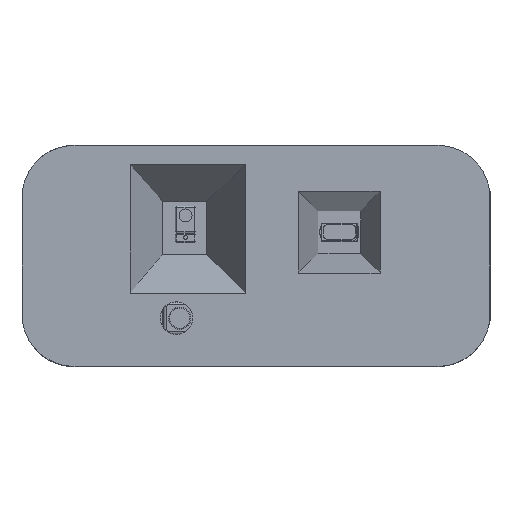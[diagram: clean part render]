
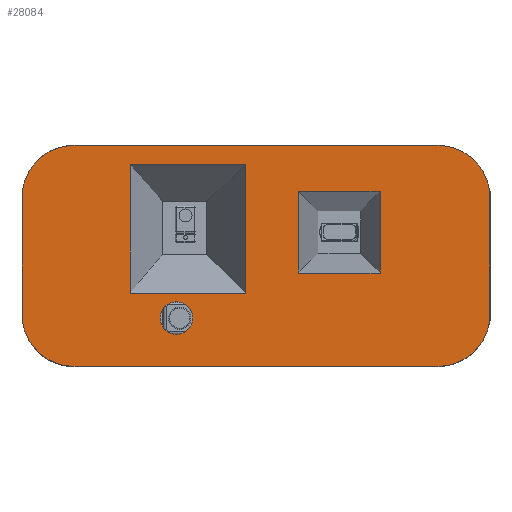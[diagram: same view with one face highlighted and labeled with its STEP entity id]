
A CAD part, top view. The second image highlights one B-rep face of the part: STEP entity #28084.
In plain terms, the highlighted planar face has unit normal (0, 0, 1).
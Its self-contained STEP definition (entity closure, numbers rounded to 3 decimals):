
#349=FACE_BOUND('',#4235,.T.);
#350=FACE_BOUND('',#4236,.T.);
#351=FACE_BOUND('',#4237,.T.);
#917=CIRCLE('',#30200,1.25);
#925=CIRCLE('',#30214,4.);
#934=CIRCLE('',#30247,4.);
#950=CIRCLE('',#30277,4.);
#951=CIRCLE('',#30279,4.);
#2681=FACE_OUTER_BOUND('',#4234,.T.);
#4234=EDGE_LOOP('',(#24928,#24929,#24930,#24931,#24932,#24933,#24934,#24935));
#4235=EDGE_LOOP('',(#24936));
#4236=EDGE_LOOP('',(#24937,#24938,#24939,#24940));
#4237=EDGE_LOOP('',(#24941,#24942,#24943,#24944));
#7373=LINE('',#46597,#10620);
#7388=LINE('',#46680,#10635);
#7391=LINE('',#46686,#10638);
#7394=LINE('',#46692,#10641);
#7397=LINE('',#46696,#10644);
#7412=LINE('',#46729,#10659);
#7416=LINE('',#46736,#10663);
#7419=LINE('',#46742,#10666);
#7421=LINE('',#46745,#10668);
#7486=LINE('',#46912,#10733);
#7489=LINE('',#46921,#10736);
#7490=LINE('',#46924,#10737);
#10620=VECTOR('',#37415,10.);
#10635=VECTOR('',#37456,10.);
#10638=VECTOR('',#37461,10.);
#10641=VECTOR('',#37466,10.);
#10644=VECTOR('',#37471,10.);
#10659=VECTOR('',#37498,10.);
#10663=VECTOR('',#37504,10.);
#10666=VECTOR('',#37509,10.);
#10668=VECTOR('',#37513,10.);
#10733=VECTOR('',#37670,10.);
#10736=VECTOR('',#37681,10.);
#10737=VECTOR('',#37684,10.);
#13163=VERTEX_POINT('',#46581);
#13169=VERTEX_POINT('',#46594);
#13170=VERTEX_POINT('',#46596);
#13181=VERTEX_POINT('',#46664);
#13182=VERTEX_POINT('',#46666);
#13187=VERTEX_POINT('',#46677);
#13188=VERTEX_POINT('',#46679);
#13190=VERTEX_POINT('',#46685);
#13192=VERTEX_POINT('',#46691);
#13203=VERTEX_POINT('',#46726);
#13204=VERTEX_POINT('',#46728);
#13206=VERTEX_POINT('',#46734);
#13208=VERTEX_POINT('',#46740);
#13234=VERTEX_POINT('',#46817);
#13264=VERTEX_POINT('',#46910);
#13266=VERTEX_POINT('',#46916);
#13267=VERTEX_POINT('',#46922);
#17015=EDGE_CURVE('',#13163,#13163,#917,.T.);
#17022=EDGE_CURVE('',#13170,#13169,#7373,.T.);
#17040=EDGE_CURVE('',#13182,#13181,#925,.T.);
#17046=EDGE_CURVE('',#13188,#13187,#7388,.T.);
#17049=EDGE_CURVE('',#13190,#13188,#7391,.T.);
#17052=EDGE_CURVE('',#13192,#13190,#7394,.T.);
#17055=EDGE_CURVE('',#13187,#13192,#7397,.T.);
#17070=EDGE_CURVE('',#13204,#13203,#7412,.T.);
#17074=EDGE_CURVE('',#13203,#13206,#7416,.T.);
#17077=EDGE_CURVE('',#13206,#13208,#7419,.T.);
#17079=EDGE_CURVE('',#13208,#13204,#7421,.T.);
#17115=EDGE_CURVE('',#13234,#13170,#934,.T.);
#17166=EDGE_CURVE('',#13181,#13264,#7486,.T.);
#17169=EDGE_CURVE('',#13264,#13266,#950,.T.);
#17171=EDGE_CURVE('',#13266,#13234,#7489,.T.);
#17172=EDGE_CURVE('',#13169,#13267,#951,.T.);
#17173=EDGE_CURVE('',#13267,#13182,#7490,.T.);
#24928=ORIENTED_EDGE('',*,*,#17169,.T.);
#24929=ORIENTED_EDGE('',*,*,#17171,.T.);
#24930=ORIENTED_EDGE('',*,*,#17115,.T.);
#24931=ORIENTED_EDGE('',*,*,#17022,.T.);
#24932=ORIENTED_EDGE('',*,*,#17172,.T.);
#24933=ORIENTED_EDGE('',*,*,#17173,.T.);
#24934=ORIENTED_EDGE('',*,*,#17040,.T.);
#24935=ORIENTED_EDGE('',*,*,#17166,.T.);
#24936=ORIENTED_EDGE('',*,*,#17015,.T.);
#24937=ORIENTED_EDGE('',*,*,#17046,.T.);
#24938=ORIENTED_EDGE('',*,*,#17055,.T.);
#24939=ORIENTED_EDGE('',*,*,#17052,.T.);
#24940=ORIENTED_EDGE('',*,*,#17049,.T.);
#24941=ORIENTED_EDGE('',*,*,#17070,.T.);
#24942=ORIENTED_EDGE('',*,*,#17074,.T.);
#24943=ORIENTED_EDGE('',*,*,#17077,.T.);
#24944=ORIENTED_EDGE('',*,*,#17079,.T.);
#26111=PLANE('',#30278);
#28084=ADVANCED_FACE('',(#2681,#349,#350,#351),#26111,.T.);
#30200=AXIS2_PLACEMENT_3D('',#46582,#37403,#37404);
#30214=AXIS2_PLACEMENT_3D('',#46667,#37446,#37447);
#30247=AXIS2_PLACEMENT_3D('',#46818,#37578,#37579);
#30277=AXIS2_PLACEMENT_3D('',#46918,#37676,#37677);
#30278=AXIS2_PLACEMENT_3D('',#46920,#37679,#37680);
#30279=AXIS2_PLACEMENT_3D('',#46923,#37682,#37683);
#37403=DIRECTION('center_axis',(0.,0.,
-1.));
#37404=DIRECTION('ref_axis',(-1.,0.,0.));
#37415=DIRECTION('',(-1.,0.,0.));
#37446=DIRECTION('center_axis',(0.,0.,
1.));
#37447=DIRECTION('ref_axis',(-1.,0.,0.));
#37456=DIRECTION('',(-1.,0.,0.));
#37461=DIRECTION('',(0.,-1.,0.));
#37466=DIRECTION('',(1.,0.,0.));
#37471=DIRECTION('',(0.,1.,0.));
#37498=DIRECTION('',(0.,-1.,0.));
#37504=DIRECTION('',(-1.,0.,0.));
#37509=DIRECTION('',(0.,1.,0.));
#37513=DIRECTION('',(1.,0.,0.));
#37578=DIRECTION('center_axis',(0.,0.,
1.));
#37579=DIRECTION('ref_axis',(1.,0.,0.));
#37670=DIRECTION('',(1.,0.,0.));
#37676=DIRECTION('center_axis',(0.,0.,
1.));
#37677=DIRECTION('ref_axis',(0.,-1.,0.));
#37679=DIRECTION('center_axis',(0.,0.,
1.));
#37680=DIRECTION('ref_axis',(-1.,0.,0.));
#37681=DIRECTION('',(0.,1.,0.));
#37682=DIRECTION('center_axis',(0.,0.,
1.));
#37683=DIRECTION('ref_axis',(0.,1.,0.));
#37684=DIRECTION('',(0.,-1.,0.));
#46581=CARTESIAN_POINT('',(-6.37,-4.785,5.435));
#46582=CARTESIAN_POINT('Origin',(-7.62,-4.785,5.435));
#46594=CARTESIAN_POINT('',(-15.5,8.5,5.435));
#46596=CARTESIAN_POINT('',(12.5,8.5,5.435));
#46597=CARTESIAN_POINT('',(-15.5,8.5,5.435));
#46664=CARTESIAN_POINT('',(-15.5,-8.5,5.435));
#46666=CARTESIAN_POINT('',(-19.5,-4.5,5.435));
#46667=CARTESIAN_POINT('Origin',(-15.5,-4.5,5.435));
#46677=CARTESIAN_POINT('',(-11.19,-2.87,5.435));
#46679=CARTESIAN_POINT('',(-2.29,-2.87,5.435));
#46680=CARTESIAN_POINT('',(-5.101,-2.87,5.435));
#46685=CARTESIAN_POINT('',(-2.29,7.03,5.435));
#46686=CARTESIAN_POINT('',(-2.29,0.065,5.435));
#46691=CARTESIAN_POINT('',(-11.19,7.03,5.435));
#46692=CARTESIAN_POINT('',(-3.401,7.03,5.435));
#46696=CARTESIAN_POINT('',(-11.19,2.115,5.435));
#46726=CARTESIAN_POINT('',(8.046,-1.316,5.435));
#46728=CARTESIAN_POINT('',(8.046,4.976,5.435));
#46729=CARTESIAN_POINT('',(8.046,1.738,5.435));
#46734=CARTESIAN_POINT('',(1.754,-1.316,5.435));
#46736=CARTESIAN_POINT('',(2.517,-1.316,5.435));
#46740=CARTESIAN_POINT('',(1.754,4.976,5.435));
#46742=CARTESIAN_POINT('',(1.754,0.092,5.435));
#46745=CARTESIAN_POINT('',(0.871,4.976,5.435));
#46817=CARTESIAN_POINT('',(16.5,4.5,5.435));
#46818=CARTESIAN_POINT('Origin',(12.5,4.5,5.435));
#46910=CARTESIAN_POINT('',(12.5,-8.5,5.435));
#46912=CARTESIAN_POINT('',(12.5,-8.5,5.435));
#46916=CARTESIAN_POINT('',(16.5,-4.5,5.435));
#46918=CARTESIAN_POINT('Origin',(12.5,-4.5,5.435));
#46920=CARTESIAN_POINT('Origin',(-1.512,0.,
5.435));
#46921=CARTESIAN_POINT('',(16.5,4.5,5.435));
#46922=CARTESIAN_POINT('',(-19.5,4.5,5.435));
#46923=CARTESIAN_POINT('Origin',(-15.5,4.5,5.435));
#46924=CARTESIAN_POINT('',(-19.5,-4.5,5.435));
